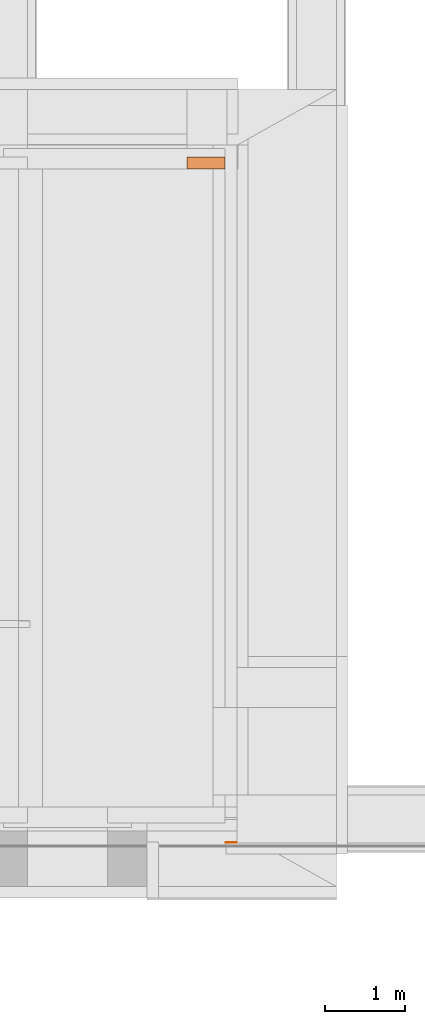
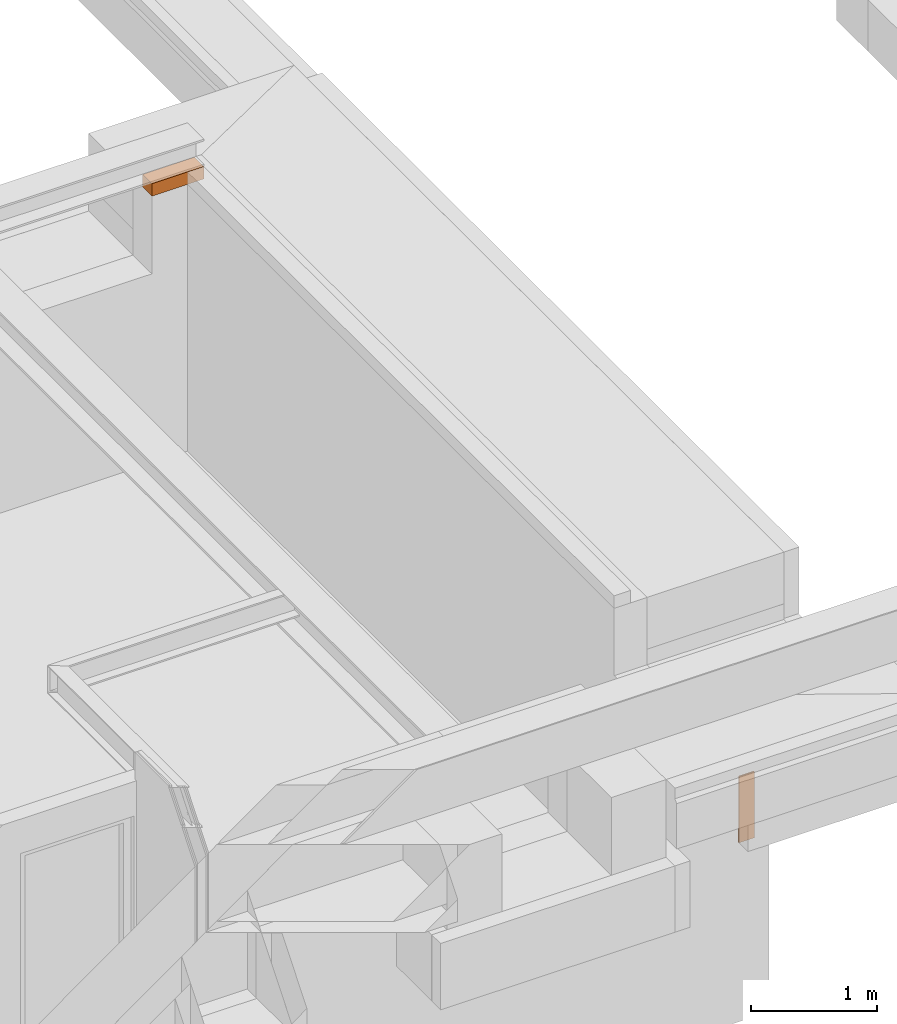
# One storey, part 11 of 11: 2 proxies.
"""IFC2X3 building model written with IfcOpenShell, lengths in millimetres."""

import ifcopenshell
import ifcopenshell.guid

model = None  # the IFC model being written
_history = None  # IfcOwnerHistory: only IFC2X3 demands one
_inside = {}  # id of a spatial element -> (the spatial element, [elements in it])
_under = {}  # id of a project, library or spatial element -> (it, [spatial elements below it])
_declared = {}  # id of a project -> (the project, [libraries it declares])
_typed = {}  # id of a type object -> (the type object, [elements of that type])
_made_of = {}  # id of a material, layer set ... -> (it, [elements and type objects made of it])


def new_model(schema):
    """Start an empty IFC model of exactly this schema.

    Asked for "IFC4X3", IfcOpenShell would pick the latest addendum, in which some entities
    have other attributes; the version numbers below select the first issue.
    IFC2X3 requires an IfcOwnerHistory on every rooted entity: one is made here for all.
    """
    global model, _history
    if schema == "IFC4X3":
        model = ifcopenshell.file(schema_version=(4, 3, 0, 0))
    else:
        model = ifcopenshell.file(schema=schema)
    _inside.clear()
    _under.clear()
    _declared.clear()
    _typed.clear()
    _made_of.clear()
    _history = None
    if model.schema == "IFC2X3":
        org = make("IfcOrganization", Name="unknown")
        user = make(
            "IfcPersonAndOrganization",
            ThePerson=make("IfcPerson", FamilyName="unknown"),
            TheOrganization=org,
        )
        app = make(
            "IfcApplication",
            ApplicationDeveloper=org,
            Version="unknown",
            ApplicationFullName="unknown",
            ApplicationIdentifier="unknown",
        )
        _history = make(
            "IfcOwnerHistory",
            OwningUser=user,
            OwningApplication=app,
            ChangeAction="ADDED",
            CreationDate=0,
        )
    return model


def make(cls, **values):
    """One entity of the class cls with the attributes given. An attribute that is None is left unset."""
    return model.create_entity(
        cls, **{name: value for name, value in values.items() if value is not None}
    )


def entity(cls, *values):
    """Any entity or typed value of the class cls, its attributes in the order of the schema. None: left unset."""
    e = model.create_entity(cls)
    for i, value in enumerate(values):
        if value is not None:
            e[i] = value
    return e


def rooted(cls, **values):
    """An entity with a GlobalId (a new one), such as an element, a storey or a relation."""
    return make(cls, GlobalId=ifcopenshell.guid.new(), OwnerHistory=_history, **values)


def si_unit(unit_type, name, prefix=None):
    """IfcSIUnit, for example si_unit("LENGTHUNIT", "METRE", prefix="MILLI")."""
    return make("IfcSIUnit", UnitType=unit_type, Prefix=prefix, Name=name)


def converted_unit(unit_type, name, factor, base, dimensions=None, offset=None):
    """IfcConversionBasedUnit, such as the inch: factor (a typed value) times the base unit."""
    return make(
        "IfcConversionBasedUnit"
        if offset is None
        else "IfcConversionBasedUnitWithOffset",
        ConversionOffset=offset,
        Dimensions=None
        if dimensions is None
        else entity("IfcDimensionalExponents", *dimensions),
        UnitType=unit_type,
        Name=name,
        ConversionFactor=make(
            "IfcMeasureWithUnit", ValueComponent=factor, UnitComponent=base
        ),
    )


def derived_unit(unit_type, elements):
    """IfcDerivedUnit: a product of units, each with its exponent."""
    return make(
        "IfcDerivedUnit",
        Elements=[
            make("IfcDerivedUnitElement", Unit=unit, Exponent=power)
            for unit, power in elements
        ],
        UnitType=unit_type,
    )


def money_unit(currency):
    """IfcMonetaryUnit."""
    return make("IfcMonetaryUnit", Currency=currency)


def assignment(units):
    """IfcUnitAssignment: the units of a project."""
    return None if units is None else make("IfcUnitAssignment", Units=units)


def point(xyz):
    """IfcCartesianPoint."""
    return None if xyz is None else make("IfcCartesianPoint", Coordinates=xyz)


def direction(xyz):
    """IfcDirection."""
    return None if xyz is None else make("IfcDirection", DirectionRatios=xyz)


def frame(location, z_axis=None, x_axis=None):
    """IfcAxis2Placement3D, a coordinate frame: its origin and axes. An axis left out is left unset."""
    return make(
        "IfcAxis2Placement3D",
        Location=point(location),
        Axis=direction(z_axis),
        RefDirection=direction(x_axis),
    )


def origin_with_axes():
    """The frame at (0, 0, 0) with the z axis (0, 0, 1) and the x axis (1, 0, 0) written out."""
    return frame((0.0, 0.0, 0.0), z_axis=(0.0, 0.0, 1.0), x_axis=(1.0, 0.0, 0.0))


def place(relative_to, where):
    """IfcLocalPlacement: puts the frame where relative to a parent placement (None: the world)."""
    return make(
        "IfcLocalPlacement", PlacementRelTo=relative_to, RelativePlacement=where
    )


def context(
    kind, dimensions, precision=None, world=None, true_north=None, identifier=None
):
    """IfcGeometricRepresentationContext, for example the 3D "Model" context."""
    return make(
        "IfcGeometricRepresentationContext",
        ContextIdentifier=identifier,
        ContextType=kind,
        CoordinateSpaceDimension=dimensions,
        Precision=precision,
        WorldCoordinateSystem=world,
        TrueNorth=true_north,
    )


def subcontext(parent, identifier, kind, view, scale=None):
    """IfcGeometricRepresentationSubContext, for example "Body" below "Model"."""
    return make(
        "IfcGeometricRepresentationSubContext",
        ContextIdentifier=identifier,
        ContextType=kind,
        ParentContext=parent,
        TargetScale=scale,
        TargetView=view,
    )


def project(units=None, contexts=None):
    """IfcProject with its units and contexts."""
    return rooted(
        "IfcProject",
        Name="project",
        RepresentationContexts=contexts,
        UnitsInContext=assignment(units),
    )


def spatial(cls, under=None, at=None, **own):
    """A site, building, storey or space (cls), placed at a placement, below another one or the project."""
    s = rooted(cls, ObjectPlacement=at, **own)
    if under is not None:
        _under.setdefault(under.id(), (under, []))[1].append(s)
    return s


def faces_of(points, faces, orient=None, outer=None):
    """IfcFace entities. A face is a list of loops; a loop is a list of indices into points, from 0.

    orient and outer hold one flag for each loop. By default every Orientation is true, the
    first loop of a face is its IfcFaceOuterBound and the others are IfcFaceBound.
    """
    made = []
    for i, loops in enumerate(faces):
        bounds = []
        for j, loop in enumerate(loops):
            is_outer = j == 0 if outer is None else outer[i][j]
            bounds.append(
                make(
                    "IfcFaceOuterBound" if is_outer else "IfcFaceBound",
                    Bound=make("IfcPolyLoop", Polygon=[points[k] for k in loop]),
                    Orientation=True if orient is None else orient[i][j],
                )
            )
        made.append(make("IfcFace", Bounds=bounds))
    return made


def faceted_brep(points, faces, orient=None, outer=None, voids=None):
    """IfcFacetedBrep: a solid bounded by flat faces; with voids (closed shells), ...WithVoids."""
    shared = [point(p) for p in points]
    hull = make("IfcClosedShell", CfsFaces=faces_of(shared, faces, orient, outer))
    if voids is None:
        return make("IfcFacetedBrep", Outer=hull)
    return make(
        "IfcFacetedBrepWithVoids",
        Outer=hull,
        Voids=[
            make(cls, CfsFaces=faces_of(shared, fs, o, b)) for cls, fs, o, b in voids
        ],
    )


def shape(context_of_items, identifier, shape_type, items):
    """IfcShapeRepresentation: the items that make up one representation, for example the "Body"."""
    return make(
        "IfcShapeRepresentation",
        ContextOfItems=context_of_items,
        RepresentationIdentifier=identifier,
        RepresentationType=shape_type,
        Items=items,
    )


def material(Name=None, Category=None):
    """IfcMaterial."""
    return make("IfcMaterial", Name=Name, Category=Category)


def made_of(thing, what):
    """Note that an element or type object is made of a material, layer set ...; save() writes the relation."""
    if what is not None:
        _made_of.setdefault(what.id(), (what, []))[1].append(thing)
    return thing


def type_object(cls, material=None, **own):
    """A type object (cls), such as IfcWallType, which elements share."""
    return made_of(rooted(cls, **own), material)


def element(
    cls,
    number,
    at=None,
    inside=None,
    cuts=None,
    type_object=None,
    material=None,
    context=None,
    identifier="Body",
    shape_type=None,
    held_by="IfcProductDefinitionShape",
    body=None,
    shapes=None,
    **own,
):
    """One element of the class cls, such as IfcWall. Its Tag is "e" and its number.

    at: its placement. inside: the storey or other place that contains it. cuts: it is an
    opening in that element (IfcRelVoidsElement). A single representation is given by context,
    identifier, shape_type and body (its items); several are given by shapes. held_by: the class
    of the entity that holds the representations. save() writes the other relations.
    """
    e = rooted(cls, Tag="e%d" % number, ObjectPlacement=at, **own)
    if body is not None:
        shapes = [shape(context, identifier, shape_type, body)]
    if shapes is not None:
        e.Representation = make(held_by, Representations=shapes)
    if inside is not None:
        _inside.setdefault(inside.id(), (inside, []))[1].append(e)
    if cuts is not None:
        rooted(
            "IfcRelVoidsElement", RelatingBuildingElement=cuts, RelatedOpeningElement=e
        )
    if type_object is not None:
        _typed.setdefault(type_object.id(), (type_object, []))[1].append(e)
    return made_of(e, material)


def aggregate(whole, parts):
    """IfcRelAggregates: a whole, such as a stair, and the parts it consists of."""
    return rooted("IfcRelAggregates", RelatingObject=whole, RelatedObjects=parts)


def save(model, path):
    """Write the relations noted so far, then the file.

    IfcRelAggregates (storeys below a building ...), IfcRelContainedInSpatialStructure (elements
    in a storey), IfcRelDefinesByType, IfcRelAssociatesMaterial and IfcRelDeclares: one each for
    every whole, place, type object, material and project.
    """
    for whole, parts in _under.values():
        aggregate(whole, parts)
    for where, things in _inside.values():
        rooted(
            "IfcRelContainedInSpatialStructure",
            RelatedElements=things,
            RelatingStructure=where,
        )
    for kind, things in _typed.values():
        rooted("IfcRelDefinesByType", RelatedObjects=things, RelatingType=kind)
    for what, things in _made_of.values():
        rooted("IfcRelAssociatesMaterial", RelatedObjects=things, RelatingMaterial=what)
    for by, libraries in _declared.values():
        rooted("IfcRelDeclares", RelatingContext=by, RelatedDefinitions=libraries)
    model.write(path)


model = new_model("IFC2X3")

# Units and contexts
model_context = context("Model", 3, precision=0.01, world=origin_with_axes(), true_north=direction((0.0, 1.0)))
body_context = subcontext(model_context, "Body", "Model", "MODEL_VIEW")
ifc_project = project(units=[si_unit("LENGTHUNIT", "METRE", prefix="MILLI"), si_unit("AREAUNIT", "SQUARE_METRE"), si_unit("VOLUMEUNIT", "CUBIC_METRE"), converted_unit("PLANEANGLEUNIT", "DEGREE", entity("IfcPlaneAngleMeasure", 0.0174532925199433), si_unit("PLANEANGLEUNIT", "RADIAN"), dimensions=[0, 0, 0, 0, 0, 0, 0]), money_unit("EUR"), converted_unit("TIMEUNIT", "Year", entity("IfcTimeMeasure", 31556926.0), si_unit("TIMEUNIT", "SECOND"), dimensions=[0, 0, 1, 0, 0, 0, 0]), si_unit("MASSUNIT", "GRAM", prefix="KILO"), si_unit("THERMODYNAMICTEMPERATUREUNIT", "DEGREE_CELSIUS"), si_unit("LUMINOUSINTENSITYUNIT", "LUMEN"), si_unit("ENERGYUNIT", "JOULE", prefix="MEGA"), derived_unit("THERMALCONDUCTANCEUNIT", [(si_unit("POWERUNIT", "WATT"), 1), (si_unit("LENGTHUNIT", "METRE"), -1), (si_unit("THERMODYNAMICTEMPERATUREUNIT", "KELVIN"), -1)]), derived_unit("SPECIFICHEATCAPACITYUNIT", [(si_unit("ENERGYUNIT", "JOULE"), 1), (si_unit("MASSUNIT", "GRAM", prefix="KILO"), -1), (si_unit("THERMODYNAMICTEMPERATUREUNIT", "KELVIN"), -1)]), derived_unit("MASSDENSITYUNIT", [(si_unit("MASSUNIT", "GRAM", prefix="KILO"), 1), (si_unit("VOLUMEUNIT", "CUBIC_METRE"), -1)])], contexts=[model_context])

# Site, building, storey
site_placement = place(None, origin_with_axes())
site = spatial("IfcSite", under=ifc_project, at=site_placement, Name="Site", CompositionType="ELEMENT")
building_placement = place(site_placement, origin_with_axes())
building = spatial("IfcBuilding", under=site, at=building_placement, Name="Naam gebouw", CompositionType="ELEMENT")
storey_placement = place(building_placement, frame((0.0, 0.0, -3060.0), z_axis=(0.0, 0.0, 1.0), x_axis=(1.0, 0.0, 0.0)))
storey = spatial("IfcBuildingStorey", under=building, at=storey_placement, Name="Kelder", CompositionType="ELEMENT", Elevation=-3060.0)

# Proxies
ifc_material_1 = material(Name="Beton gewapend C")
building_element_proxy_type_1 = type_object("IfcBuildingElementProxyType", Name="Beton gewapend C 150", PredefinedType="NOTDEFINED")
proxy_1_placement = place(storey_placement, frame((23200.00000000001, 12680.0, 2575.0), z_axis=(0.0, 0.0, 1.0), x_axis=(-1.0, 0.0, 0.0)))
element("IfcBuildingElementProxy", 1, at=proxy_1_placement, inside=storey, type_object=building_element_proxy_type_1, material=ifc_material_1, Name="f2- Met cement gebonden producten (alle vulmiddelen)_Wand-x", context=body_context, shape_type="Brep", body=[
    faceted_brep([(-149.9999999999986, -150.0000000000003, 119.9999999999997), (324.9999471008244, -150.0000000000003, 119.9999999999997), (324.9999471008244, 0.0, 119.9999999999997), (-149.9999999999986, 0.0, 119.9999999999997), (-149.9999999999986, -150.0000000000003, 0.0), (324.9999471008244, -150.0000000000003, 0.0), (324.9999471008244, 0.0, 0.0), (-149.9999999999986, 0.0, 0.0)], [[[0, 1, 2, 3]], [[4, 5, 1, 0]], [[2, 1, 5, 6]], [[3, 2, 6, 7]], [[4, 0, 3, 7]], [[7, 6, 5, 4]]]),
])
ifc_material_2 = material(Name="Isolatie - Kunststof hard")
building_element_proxy_type_2 = type_object("IfcBuildingElementProxyType", Name="Isolatie - Kunststof hard 140", PredefinedType="NOTDEFINED")
proxy_2_placement = place(storey_placement, frame((23500.00000000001, 4229.999999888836, 1285.0), z_axis=(0.0, 0.0, 1.0), x_axis=(0.0, 1.0, 0.0)))
element("IfcBuildingElementProxy", 2, at=proxy_2_placement, inside=storey, type_object=building_element_proxy_type_2, material=ifc_material_2, Name="n7 Kunststof met cellenstructuur_Wand-x", context=body_context, shape_type="Brep", body=[
    faceted_brep([(0.0, 0.0, 0.0), (-4.980016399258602e-09, 140.0000000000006, 0.0), (10.00000011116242, 140.0000000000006, 0.0), (10.00000011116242, 0.0, 0.0), (0.0, 0.0, 640.0000000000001), (-4.980016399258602e-09, 140.0000000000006, 640.0000000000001), (10.00000011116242, 140.0000000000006, 640.0000000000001), (10.00000011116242, 0.0, 640.0000000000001)], [[[0, 1, 2, 3]], [[1, 0, 4, 5]], [[1, 5, 6, 2]], [[7, 3, 2, 6]], [[4, 0, 3, 7]], [[5, 4, 7, 6]]]),
])

save(model, "model.ifc")
